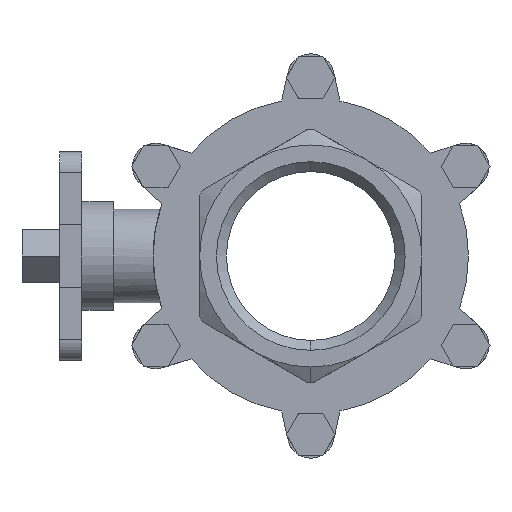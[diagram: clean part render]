
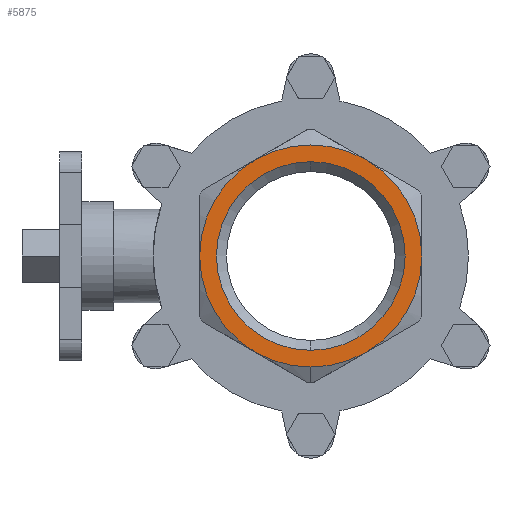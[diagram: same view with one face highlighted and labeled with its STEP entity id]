
A CAD part, left-side view. The second image highlights one B-rep face of the part: STEP entity #5875.
In plain terms, the highlighted planar face has unit normal (-1, 0, 0).
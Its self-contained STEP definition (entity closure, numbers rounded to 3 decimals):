
#104 = DIRECTION ( 'NONE',  ( 0., 0., 1. ) ) ;
#333 = DIRECTION ( 'NONE',  ( -1., 0., 0. ) ) ;
#556 = DIRECTION ( 'NONE',  ( -1., 0., 0. ) ) ;
#837 = CARTESIAN_POINT ( 'NONE',  ( -91., 0., -42.46 ) ) ;
#911 = ORIENTED_EDGE ( 'NONE', *, *, #3329, .T. ) ;
#937 = EDGE_CURVE ( 'NONE', #1714, #2503, #9207, .T. ) ;
#1089 = CIRCLE ( 'NONE', #7836, 50. ) ;
#1110 = ORIENTED_EDGE ( 'NONE', *, *, #10852, .T. ) ;
#1185 = VERTEX_POINT ( 'NONE', #8895 ) ;
#1333 = DIRECTION ( 'NONE',  ( -1., 0., 0. ) ) ;
#1387 = CARTESIAN_POINT ( 'NONE',  ( -91., 0., 0. ) ) ;
#1454 = AXIS2_PLACEMENT_3D ( 'NONE', #7293, #1949, #8148 ) ;
#1522 = AXIS2_PLACEMENT_3D ( 'NONE', #5920, #556, #6794 ) ;
#1697 = EDGE_CURVE ( 'NONE', #6896, #4679, #9993, .T. ) ;
#1705 = AXIS2_PLACEMENT_3D ( 'NONE', #1387, #7593, #2299 ) ;
#1714 = VERTEX_POINT ( 'NONE', #3550 ) ;
#1885 = VERTEX_POINT ( 'NONE', #9059 ) ;
#1949 = DIRECTION ( 'NONE',  ( -1., 0., 0. ) ) ;
#1972 = AXIS2_PLACEMENT_3D ( 'NONE', #5677, #333, #6547 ) ;
#1990 = VERTEX_POINT ( 'NONE', #6599 ) ;
#2044 = ORIENTED_EDGE ( 'NONE', *, *, #4965, .T. ) ;
#2054 = DIRECTION ( 'NONE',  ( 1., 0., 0. ) ) ;
#2299 = DIRECTION ( 'NONE',  ( 0., 0., 1. ) ) ;
#2423 = ORIENTED_EDGE ( 'NONE', *, *, #5795, .T. ) ;
#2503 = VERTEX_POINT ( 'NONE', #10541 ) ;
#2752 = CIRCLE ( 'NONE', #1454, 50. ) ;
#2850 = CARTESIAN_POINT ( 'NONE',  ( -91., 0., 0. ) ) ;
#3329 = EDGE_CURVE ( 'NONE', #5986, #1885, #6280, .T. ) ;
#3550 = CARTESIAN_POINT ( 'NONE',  ( -91., -50., 0. ) ) ;
#3556 = ORIENTED_EDGE ( 'NONE', *, *, #937, .T. ) ;
#3607 = CIRCLE ( 'NONE', #5116, 50. ) ;
#3688 = FACE_OUTER_BOUND ( 'NONE', #5813, .T. ) ;
#3744 = DIRECTION ( 'NONE',  ( 0., 0., 1. ) ) ;
#4441 = CARTESIAN_POINT ( 'NONE',  ( -91., 0., 0. ) ) ;
#4473 = CARTESIAN_POINT ( 'NONE',  ( -91., 0., 0. ) ) ;
#4538 = CIRCLE ( 'NONE', #10689, 50. ) ;
#4591 = AXIS2_PLACEMENT_3D ( 'NONE', #10855, #2054, #8260 ) ;
#4679 = VERTEX_POINT ( 'NONE', #837 ) ;
#4687 = EDGE_CURVE ( 'NONE', #1990, #6030, #3607, .T. ) ;
#4947 = AXIS2_PLACEMENT_3D ( 'NONE', #10696, #5459, #104 ) ;
#4965 = EDGE_CURVE ( 'NONE', #1185, #1714, #1089, .T. ) ;
#5116 = AXIS2_PLACEMENT_3D ( 'NONE', #4473, #10600, #5390 ) ;
#5235 = EDGE_CURVE ( 'NONE', #2503, #5986, #2752, .T. ) ;
#5344 = DIRECTION ( 'NONE',  ( 0., 0., 1. ) ) ;
#5390 = DIRECTION ( 'NONE',  ( 0., 0., 1. ) ) ;
#5459 = DIRECTION ( 'NONE',  ( -1., 0., 0. ) ) ;
#5677 = CARTESIAN_POINT ( 'NONE',  ( -91., 0., 0. ) ) ;
#5779 = FACE_BOUND ( 'NONE', #6484, .T. ) ;
#5795 = EDGE_CURVE ( 'NONE', #1885, #1990, #4538, .T. ) ;
#5813 = EDGE_LOOP ( 'NONE', ( #911, #2423, #9743, #1110, #2044, #3556, #6300 ) ) ;
#5875 = ADVANCED_FACE ( 'NONE', ( #5779, #3688 ), #7374, .F. ) ;
#5920 = CARTESIAN_POINT ( 'NONE',  ( -91., 0., 0. ) ) ;
#5986 = VERTEX_POINT ( 'NONE', #10195 ) ;
#6030 = VERTEX_POINT ( 'NONE', #10229 ) ;
#6157 = ORIENTED_EDGE ( 'NONE', *, *, #11212, .F. ) ;
#6280 = CIRCLE ( 'NONE', #1705, 50. ) ;
#6300 = ORIENTED_EDGE ( 'NONE', *, *, #5235, .T. ) ;
#6322 = CARTESIAN_POINT ( 'NONE',  ( -91., 0., 42.46 ) ) ;
#6484 = EDGE_LOOP ( 'NONE', ( #10309, #6157 ) ) ;
#6547 = DIRECTION ( 'NONE',  ( 0., 0., 1. ) ) ;
#6599 = CARTESIAN_POINT ( 'NONE',  ( -91., 25., -43.301 ) ) ;
#6656 = CARTESIAN_POINT ( 'NONE',  ( -91., 0., 0. ) ) ;
#6794 = DIRECTION ( 'NONE',  ( 0., 0., 1. ) ) ;
#6816 = AXIS2_PLACEMENT_3D ( 'NONE', #4441, #10584, #5344 ) ;
#6896 = VERTEX_POINT ( 'NONE', #6322 ) ;
#7293 = CARTESIAN_POINT ( 'NONE',  ( -91., 0., 0. ) ) ;
#7374 = PLANE ( 'NONE',  #4591 ) ;
#7547 = DIRECTION ( 'NONE',  ( 0., 0., 1. ) ) ;
#7593 = DIRECTION ( 'NONE',  ( -1., 0., 0. ) ) ;
#7836 = AXIS2_PLACEMENT_3D ( 'NONE', #6656, #1333, #7547 ) ;
#7894 = CIRCLE ( 'NONE', #4947, 50. ) ;
#8148 = DIRECTION ( 'NONE',  ( 0., 0., 1. ) ) ;
#8260 = DIRECTION ( 'NONE',  ( 0., 0., -1. ) ) ;
#8895 = CARTESIAN_POINT ( 'NONE',  ( -91., -25., -43.301 ) ) ;
#9021 = DIRECTION ( 'NONE',  ( -1., 0., 0. ) ) ;
#9059 = CARTESIAN_POINT ( 'NONE',  ( -91., 50., 0. ) ) ;
#9207 = CIRCLE ( 'NONE', #1522, 50. ) ;
#9743 = ORIENTED_EDGE ( 'NONE', *, *, #4687, .T. ) ;
#9993 = CIRCLE ( 'NONE', #6816, 42.46 ) ;
#10195 = CARTESIAN_POINT ( 'NONE',  ( -91., 25., 43.301 ) ) ;
#10229 = CARTESIAN_POINT ( 'NONE',  ( -91., 0., -50. ) ) ;
#10309 = ORIENTED_EDGE ( 'NONE', *, *, #1697, .F. ) ;
#10541 = CARTESIAN_POINT ( 'NONE',  ( -91., -25., 43.301 ) ) ;
#10584 = DIRECTION ( 'NONE',  ( -1., 0., 0. ) ) ;
#10600 = DIRECTION ( 'NONE',  ( -1., 0., 0. ) ) ;
#10689 = AXIS2_PLACEMENT_3D ( 'NONE', #2850, #9021, #3744 ) ;
#10696 = CARTESIAN_POINT ( 'NONE',  ( -91., 0., 0. ) ) ;
#10852 = EDGE_CURVE ( 'NONE', #6030, #1185, #7894, .T. ) ;
#10855 = CARTESIAN_POINT ( 'NONE',  ( -91., 42.46, 0. ) ) ;
#11020 = CIRCLE ( 'NONE', #1972, 42.46 ) ;
#11212 = EDGE_CURVE ( 'NONE', #4679, #6896, #11020, .T. ) ;
